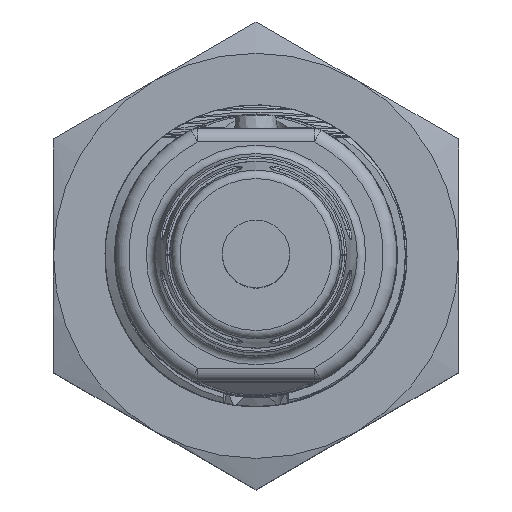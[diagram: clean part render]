
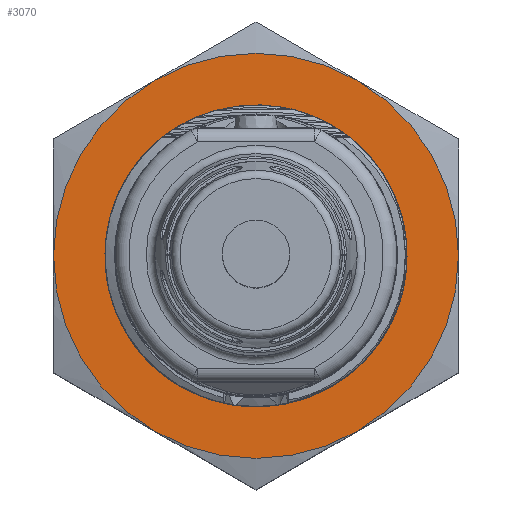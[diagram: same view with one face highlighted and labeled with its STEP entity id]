
A CAD part, top view. The second image highlights one B-rep face of the part: STEP entity #3070.
In plain terms, the highlighted planar face has unit normal (0, 0, 1).
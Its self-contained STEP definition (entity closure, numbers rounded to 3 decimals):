
#2427=FACE_BOUND('',#4147,.T.);
#2428=FACE_BOUND('',#4148,.T.);
#3070=ADVANCED_FACE('',(#2427,#2428),#3265,.T.);
#3265=PLANE('',#10269);
#4147=EDGE_LOOP('',(#6883,#6884,#6885,#6886));
#4148=EDGE_LOOP('',(#6887,#6888,#6889,#6890,#6891,#6892));
#4457=CIRCLE('',#10202,8.39);
#4463=CIRCLE('',#10226,8.95);
#4472=CIRCLE('',#10263,12.);
#4473=CIRCLE('',#10264,12.);
#4474=CIRCLE('',#10265,12.);
#4475=CIRCLE('',#10266,12.);
#4476=CIRCLE('',#10267,12.);
#4477=CIRCLE('',#10268,12.);
#4899=B_SPLINE_CURVE_WITH_KNOTS('',3,(#34443,#34444,#34445,#34446,#34447,
#34448,#34449,#34450),.UNSPECIFIED.,.F.,.F.,(4,2,2,4),(0.,0.5,0.75,1.),
 .UNSPECIFIED.);
#4938=B_SPLINE_CURVE_WITH_KNOTS('',3,(#64106,#64107,#64108,#64109,#64110,
#64111),.UNSPECIFIED.,.F.,.F.,(4,2,4),(0.,0.5,1.),.UNSPECIFIED.);
#6883=ORIENTED_EDGE('',*,*,#8924,.F.);
#6884=ORIENTED_EDGE('',*,*,#8942,.T.);
#6885=ORIENTED_EDGE('',*,*,#8885,.F.);
#6886=ORIENTED_EDGE('',*,*,#8957,.F.);
#6887=ORIENTED_EDGE('',*,*,#9006,.F.);
#6888=ORIENTED_EDGE('',*,*,#9007,.F.);
#6889=ORIENTED_EDGE('',*,*,#9008,.F.);
#6890=ORIENTED_EDGE('',*,*,#9009,.F.);
#6891=ORIENTED_EDGE('',*,*,#9010,.F.);
#6892=ORIENTED_EDGE('',*,*,#9011,.F.);
#7896=VERTEX_POINT('',#34442);
#7897=VERTEX_POINT('',#34451);
#7910=VERTEX_POINT('',#64105);
#7911=VERTEX_POINT('',#64112);
#7922=VERTEX_POINT('',#76029);
#7928=VERTEX_POINT('',#76054);
#7932=VERTEX_POINT('',#76076);
#7936=VERTEX_POINT('',#76098);
#7940=VERTEX_POINT('',#76120);
#7943=VERTEX_POINT('',#76141);
#8885=EDGE_CURVE('',#7896,#7897,#4899,.T.);
#8924=EDGE_CURVE('',#7910,#7911,#4938,.T.);
#8942=EDGE_CURVE('',#7910,#7897,#4457,.T.);
#8957=EDGE_CURVE('',#7911,#7896,#4463,.T.);
#9006=EDGE_CURVE('',#7940,#7943,#4472,.T.);
#9007=EDGE_CURVE('',#7936,#7940,#4473,.T.);
#9008=EDGE_CURVE('',#7932,#7936,#4474,.T.);
#9009=EDGE_CURVE('',#7928,#7932,#4475,.T.);
#9010=EDGE_CURVE('',#7922,#7928,#4476,.T.);
#9011=EDGE_CURVE('',#7943,#7922,#4477,.T.);
#10202=AXIS2_PLACEMENT_3D('',#75926,#11525,#11526);
#10226=AXIS2_PLACEMENT_3D('',#75982,#11577,#11578);
#10263=AXIS2_PLACEMENT_3D('',#76183,#11662,#11663);
#10264=AXIS2_PLACEMENT_3D('',#76184,#11664,#11665);
#10265=AXIS2_PLACEMENT_3D('',#76185,#11666,#11667);
#10266=AXIS2_PLACEMENT_3D('',#76186,#11668,#11669);
#10267=AXIS2_PLACEMENT_3D('',#76187,#11670,#11671);
#10268=AXIS2_PLACEMENT_3D('',#76188,#11672,#11673);
#10269=AXIS2_PLACEMENT_3D('',#76189,#11674,#11675);
#11525=DIRECTION('',(0.,0.,-1.));
#11526=DIRECTION('',(1.,0.,0.));
#11577=DIRECTION('',(0.,0.,1.));
#11578=DIRECTION('',(1.,0.,0.));
#11662=DIRECTION('',(0.,0.,-1.));
#11663=DIRECTION('',(0.866,0.5,0.));
#11664=DIRECTION('',(0.,0.,-1.));
#11665=DIRECTION('',(0.866,0.5,0.));
#11666=DIRECTION('',(0.,0.,-1.));
#11667=DIRECTION('',(0.866,0.5,0.));
#11668=DIRECTION('',(0.,0.,-1.));
#11669=DIRECTION('',(-0.866,-0.5,0.));
#11670=DIRECTION('',(0.,0.,-1.));
#11671=DIRECTION('',(0.866,0.5,0.));
#11672=DIRECTION('',(0.,0.,-1.));
#11673=DIRECTION('',(0.866,0.5,0.));
#11674=DIRECTION('',(0.,0.,1.));
#11675=DIRECTION('',(0.866,0.5,0.));
#34442=CARTESIAN_POINT('',(8.571,2.576,16.05));
#34443=CARTESIAN_POINT('',(8.571,2.576,16.05));
#34444=CARTESIAN_POINT('',(7.632,5.383,16.05));
#34445=CARTESIAN_POINT('',(5.222,7.623,16.05));
#34446=CARTESIAN_POINT('',(0.975,8.696,16.05));
#34447=CARTESIAN_POINT('',(-0.536,8.691,16.05));
#34448=CARTESIAN_POINT('',(-3.386,7.92,16.05));
#34449=CARTESIAN_POINT('',(-4.694,7.165,16.05));
#34450=CARTESIAN_POINT('',(-5.736,6.123,16.05));
#34451=CARTESIAN_POINT('',(-5.736,6.123,16.05));
#64105=CARTESIAN_POINT('',(-6.606,-5.173,16.05));
#64106=CARTESIAN_POINT('',(-6.606,-5.173,16.05));
#64107=CARTESIAN_POINT('',(-4.864,-7.554,16.05));
#64108=CARTESIAN_POINT('',(-1.831,-8.88,16.05));
#64109=CARTESIAN_POINT('',(4.001,-8.333,16.05));
#64110=CARTESIAN_POINT('',(6.719,-6.486,16.05));
#64111=CARTESIAN_POINT('',(8.075,-3.859,16.05));
#64112=CARTESIAN_POINT('',(8.075,-3.859,16.05));
#75926=CARTESIAN_POINT('',(0.,0.,16.05));
#75982=CARTESIAN_POINT('',(0.,0.,16.05));
#76029=CARTESIAN_POINT('',(-6.,-10.392,16.05));
#76054=CARTESIAN_POINT('',(-12.,0.,16.05));
#76076=CARTESIAN_POINT('',(-6.,10.392,16.05));
#76098=CARTESIAN_POINT('',(6.,10.392,16.05));
#76120=CARTESIAN_POINT('',(12.,0.,16.05));
#76141=CARTESIAN_POINT('',(6.,-10.392,16.05));
#76183=CARTESIAN_POINT('',(0.,0.,16.05));
#76184=CARTESIAN_POINT('',(0.,0.,16.05));
#76185=CARTESIAN_POINT('',(0.,0.,16.05));
#76186=CARTESIAN_POINT('',(0.,0.,16.05));
#76187=CARTESIAN_POINT('',(0.,0.,16.05));
#76188=CARTESIAN_POINT('',(0.,0.,16.05));
#76189=CARTESIAN_POINT('',(0.,0.,16.05));
